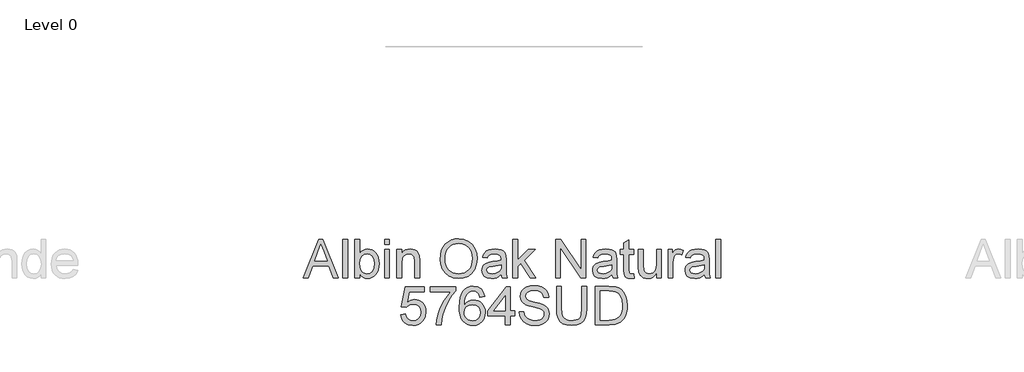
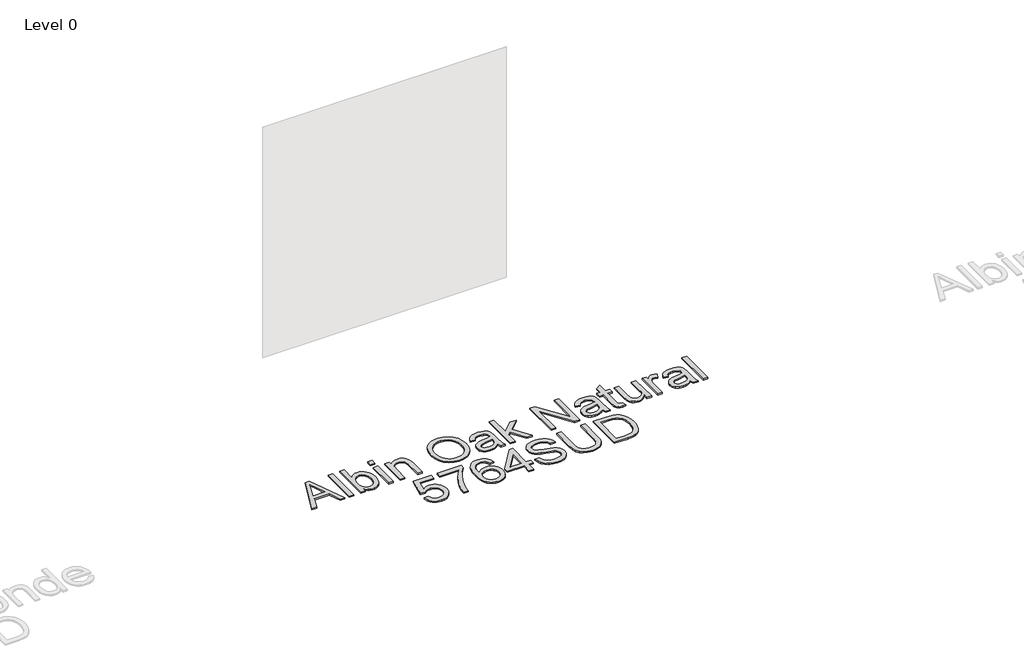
# One storey, part 31 of 43: 1 proxy.
"""IFC4 building model written with IfcOpenShell, lengths in millimetres."""

from ifc_helpers import new_model, si_unit, origin, origin_with_axes, place, context, project, spatial, polyline, outline, extrude, element, save

model = new_model("IFC4")

# Units and contexts
model_context = context("Model", 3, world=origin())
ifc_project = project(units=[si_unit("LENGTHUNIT", "METRE", prefix="MILLI")], contexts=[model_context])

# Site, building, storey
site = spatial("IfcSite", under=ifc_project)
building = spatial("IfcBuilding", under=site)
storey = spatial("IfcBuildingStorey", under=building, Name="Level 0", Elevation=0.0)

# Proxy
placement = place(None, origin())
element("IfcBuildingElementProxy", 1, Name="300mm Arial", ObjectType="300mm Arial", at=placement, inside=storey, context=model_context, shape_type="SweptSolid", body=[
    extrude(outline(polyline([(3908.5146688, -7002.860494), (4028.8120812, -6701.4915635), (4060.8913912, -6701.4915635), (4181.1888036, -7002.860494), (4141.3839718, -7002.860494), (4106.8766406, -6908.6827032), (3982.7532554, -6908.6827032), (3948.3195007, -7002.860494), (3908.5146688, -7002.860494)]), holes=[polyline([(3996.5856185, -6871.0115869), (4093.117854, -6871.0115869), (4065.9681627, -6796.9201531), (4044.8517362, -6739.1626798), (4026.0897545, -6790.44543), (3996.5856185, -6871.0115869)])]), origin_with_axes(), (0.0, 0.0, 1.0), 10.0),
    extrude(outline(polyline([(4216.7262044, -7002.860494), (4216.7262044, -6701.4915635), (4254.3973207, -6701.4915635), (4254.3973207, -7002.860494), (4216.7262044, -7002.860494)])), origin_with_axes(), (0.0, 0.0, 1.0), 10.0),
    extrude(outline(polyline([(4348.5751114, -7002.860494), (4310.9039951, -7002.860494), (4310.9039951, -6701.4915635), (4348.5751114, -6701.4915635), (4348.5751114, -6813.2541137), (4360.9635376, -6797.3202248), (4374.9522505, -6785.9388755), (4390.54125, -6779.110066), (4407.7305363, -6776.8337961), (4427.1363115, -6778.8847383), (4445.475229, -6785.0375646), (4461.698825, -6794.9059992), (4474.7586358, -6808.1037657), (4484.9949523, -6824.5021057), (4492.7480653, -6843.9722603), (4497.6316988, -6865.7048891), (4499.2595767, -6888.8906519), (4497.5742173, -6915.64487), (4492.5181391, -6939.1801206), (4484.0913421, -6959.4964038), (4472.2938264, -6976.5937195), (4458.1326689, -6990.1455725), (4442.6149465, -6999.8254675), (4425.7406592, -7005.6334045), (4407.5098071, -7007.5693835), (4389.7549023, -7005.0723845), (4374.0141514, -6997.5813874), (4360.2875545, -6985.0963921), (4348.5751114, -6967.6173988), (4348.5751114, -7002.860494)]), holes=[polyline([(4348.5751114, -6890.6564855), (4351.1502854, -6922.0736078), (4358.8758073, -6943.3371872), (4368.0038793, -6954.9576597), (4378.6126763, -6963.2579972), (4390.7021984, -6968.2381997), (4404.2724455, -6969.8982672), (4426.0142714, -6965.0054367), (4444.5923122, -6950.3269451), (4457.3394233, -6925.9547629), (4461.5884604, -6891.9808606), (4457.5141673, -6857.5103177), (4445.291288, -6833.414047), (4427.2926614, -6819.2321961), (4405.8911263, -6814.5049125), (4384.1493004, -6819.397743), (4365.5712596, -6834.0762346), (4352.8241485, -6858.0069584), (4348.5751114, -6890.6564855)])]), origin_with_axes(), (0.0, 0.0, 1.0), 10.0),
    extrude(outline(polyline([(4541.6395825, -6739.1626798), (4541.6395825, -6701.4915635), (4579.3106988, -6701.4915635), (4579.3106988, -6739.1626798), (4541.6395825, -6739.1626798)])), origin_with_axes(), (0.0, 0.0, 1.0), 10.0),
    extrude(outline(polyline([(4541.6395825, -7002.860494), (4541.6395825, -6781.5426857), (4579.3106988, -6781.5426857), (4579.3106988, -7002.860494), (4541.6395825, -7002.860494)])), origin_with_axes(), (0.0, 0.0, 1.0), 10.0),
    extrude(outline(polyline([(4635.8173733, -7002.860494), (4635.8173733, -6781.5426857), (4673.4884896, -6781.5426857), (4673.4884896, -6812.4447733), (4686.5758916, -6796.8649708), (4702.2936498, -6785.7365404), (4720.6417643, -6779.0594822), (4741.6202351, -6776.8337961), (4760.1890788, -6778.6272209), (4777.194424, -6784.0074951), (4791.3762749, -6792.303234), (4801.4746357, -6802.8430532), (4812.7686129, -6830.5445674), (4814.7551757, -6866.964885), (4814.7551757, -7002.860494), (4777.0840594, -7002.860494), (4777.0840594, -6872.0416565), (4772.7430519, -6838.7115477), (4766.7373783, -6828.7879309), (4757.4023727, -6821.0900002), (4745.4370108, -6816.1511844), (4731.5402684, -6814.5049125), (4709.4765458, -6818.2021265), (4690.6685788, -6829.2937687), (4683.1522897, -6838.3482643), (4677.7835119, -6850.7228949), (4673.4884896, -6885.4325611), (4673.4884896, -7002.860494), (4635.8173733, -7002.860494)])), origin_with_axes(), (0.0, 0.0, 1.0), 10.0),
    extrude(outline(polyline([(4974.85742, -6856.1491543), (4977.3682146, -6820.8002931), (4984.9005985, -6789.5073309), (4997.4545716, -6762.2702677), (5015.0301339, -6739.0891034), (5036.5742232, -6720.5800406), (5061.0337774, -6707.3592814), (5088.4087964, -6699.4268258), (5118.6992801, -6696.782674), (5158.2282005, -6701.7490809), (5193.6736308, -6716.6483017), (5223.1041904, -6740.4318727), (5244.5884989, -6772.0513302), (5257.7218861, -6809.9799639), (5262.0996819, -6852.6910636), (5257.4919599, -6895.9723803), (5243.6687939, -6934.4344429), (5221.3935391, -6966.1090827), (5191.4295506, -6989.028131), (5156.287623, -7002.9340704), (5118.4785509, -7007.5693835), (5078.3426253, -7002.4466267), (5042.6948599, -6987.0783564), (5013.3378767, -6962.853327), (4992.0742974, -6931.1602931), (4979.1616394, -6894.6939903), (4974.85742, -6856.1491543)]), holes=[polyline([(5012.5285363, -6856.5170363), (5014.4116323, -6881.4916252), (5020.0609202, -6903.661114), (5029.4764, -6923.0255025), (5042.6580717, -6939.5847908), (5058.6816319, -6952.8469367), (5076.6227769, -6962.3198981), (5096.4815069, -6968.0036749), (5118.2578217, -6969.8982672), (5140.4066171, -6967.9852808), (5160.4998718, -6962.2463217), (5178.5375859, -6952.6813898), (5194.5197593, -6939.2904852), (5207.6048621, -6922.381709), (5216.951364, -6902.2631624), (5222.5592652, -6878.9348454), (5224.4285656, -6852.396758), (5221.2279922, -6819.0482551), (5211.6262721, -6790.2247008), (5195.8717257, -6766.6526619), (5174.2126732, -6749.0587055), (5148.0838545, -6738.1050191), (5118.9200093, -6734.4537903), (5097.9001518, -6736.2127261), (5078.3978076, -6741.4895335), (5060.4129765, -6750.2842124), (5043.9456587, -6762.5967629), (5030.2006677, -6779.0203948), (5020.3828169, -6800.1483176), (5014.4921065, -6825.9805314), (5012.5285363, -6856.5170363)])]), origin_with_axes(), (0.0, 0.0, 1.0), 10.0),
    extrude(outline(polyline([(5450.4552634, -6974.6071568), (5432.4566368, -6990.0398064), (5413.9245813, -7000.1381672), (5394.4360326, -7005.7115794), (5373.5679264, -7007.5693835), (5342.0864247, -7003.0996173), (5318.8638737, -6989.6903186), (5304.5440671, -6969.3280501), (5299.7707982, -6943.9993748), (5301.5734199, -6928.3827841), (5306.9812853, -6914.2009331), (5315.3230095, -6902.0608273), (5325.927208, -6892.5694718), (5352.3043471, -6880.2086368), (5384.8986918, -6874.5432541), (5423.4159367, -6868.5835657), (5450.2345342, -6861.5938078), (5450.4552634, -6853.2060983), (5447.8616953, -6836.3938912), (5440.0809911, -6825.3942195), (5422.6801728, -6817.2272392), (5398.4367493, -6814.5049125), (5375.9959476, -6816.3167313), (5360.3241746, -6821.7521878), (5349.6372026, -6831.8045633), (5342.150804, -6847.4671392), (5304.4796877, -6842.7582497), (5311.0187902, -6822.156858), (5320.7768601, -6805.9700502), (5334.6644054, -6793.590821), (5353.5919341, -6784.4121652), (5376.7409086, -6778.7283884), (5403.2927916, -6776.8337961), (5428.7594227, -6778.5076592), (5448.9469472, -6783.5292485), (5464.1680648, -6791.0800264), (5474.7354751, -6800.3414556), (5481.7436271, -6811.7917827), (5486.2869697, -6825.9092543), (5488.1263797, -6858.8714811), (5488.1263797, -6905.7396473), (5490.0393661, -6971.1858542), (5497.5441588, -7002.860494), (5459.8730425, -7002.860494), (5450.4552634, -6974.6071568)]), holes=[polyline([(5450.4552634, -6899.2649241), (5389.6811578, -6910.8164188), (5357.270754, -6916.9232599), (5342.5922624, -6926.8560738), (5337.4419145, -6941.3506244), (5340.2470147, -6952.5526311), (5348.6623153, -6961.7312869), (5362.5038754, -6967.8565221), (5381.5877539, -6969.8982672), (5401.8212636, -6967.64499), (5419.7003286, -6960.8851583), (5434.1948792, -6950.9247533), (5444.2748459, -6939.069756), (5448.7446121, -6926.8560738), (5450.2345342, -6909.933502), (5450.4552634, -6899.2649241)])]), origin_with_axes(), (0.0, 0.0, 1.0), 10.0),
    extrude(outline(polyline([(5539.9241646, -7002.860494), (5539.9241646, -6701.4915635), (5577.5952809, -6701.4915635), (5577.5952809, -6863.4332178), (5662.060987, -6781.5426857), (5714.1530775, -6781.5426857), (5628.6573019, -6864.4632874), (5718.8619671, -7002.860494), (5674.8632804, -7002.860494), (5601.6547634, -6890.6564855), (5577.5952809, -6913.9802039), (5577.5952809, -7002.860494), (5539.9241646, -7002.860494)])), origin_with_axes(), (0.0, 0.0, 1.0), 10.0),
    extrude(outline(polyline([(5874.2553218, -7002.860494), (5874.2553218, -6701.4915635), (5914.5751885, -6701.4915635), (6072.0286824, -6940.2469784), (6072.0286824, -6701.4915635), (6109.6997987, -6701.4915635), (6109.6997987, -7002.860494), (6069.3799321, -7002.860494), (5911.9264381, -6764.0315027), (5911.9264381, -7002.860494), (5874.2553218, -7002.860494)])), origin_with_axes(), (0.0, 0.0, 1.0), 10.0),
    extrude(outline(polyline([(6312.1820489, -6974.6071568), (6294.1834223, -6990.0398064), (6275.6513668, -7000.1381672), (6256.1628181, -7005.7115794), (6235.2947119, -7007.5693835), (6203.8132102, -7003.0996173), (6180.5906592, -6989.6903186), (6166.2708526, -6969.3280501), (6161.4975837, -6943.9993748), (6163.3002054, -6928.3827841), (6168.7080708, -6914.2009331), (6177.049795, -6902.0608273), (6187.6539935, -6892.5694718), (6214.0311326, -6880.2086368), (6246.6254774, -6874.5432541), (6285.1427222, -6868.5835657), (6311.9613197, -6861.5938078), (6312.1820489, -6853.2060983), (6309.5884808, -6836.3938912), (6301.8077766, -6825.3942195), (6284.4069583, -6817.2272392), (6260.1635348, -6814.5049125), (6237.7227331, -6816.3167313), (6222.0509601, -6821.7521878), (6211.3639881, -6831.8045633), (6203.8775895, -6847.4671392), (6166.2064732, -6842.7582497), (6172.7455757, -6822.156858), (6182.5036456, -6805.9700502), (6196.3911909, -6793.590821), (6215.3187196, -6784.4121652), (6238.4676941, -6778.7283884), (6265.0195771, -6776.8337961), (6290.4862082, -6778.5076592), (6310.6737327, -6783.5292485), (6325.8948503, -6791.0800264), (6336.4622606, -6800.3414556), (6343.4704126, -6811.7917827), (6348.0137552, -6825.9092543), (6349.8531652, -6858.8714811), (6349.8531652, -6905.7396473), (6351.7661516, -6971.1858542), (6359.2709443, -7002.860494), (6321.599828, -7002.860494), (6312.1820489, -6974.6071568)]), holes=[polyline([(6312.1820489, -6899.2649241), (6251.4079433, -6910.8164188), (6218.9975395, -6916.9232599), (6204.3190479, -6926.8560738), (6199.1687, -6941.3506244), (6201.9738002, -6952.5526311), (6210.3891008, -6961.7312869), (6224.2306609, -6967.8565221), (6243.3145394, -6969.8982672), (6263.5480491, -6967.64499), (6281.4271141, -6960.8851583), (6295.9216647, -6950.9247533), (6306.0016314, -6939.069756), (6310.4713976, -6926.8560738), (6311.9613197, -6909.933502), (6312.1820489, -6899.2649241)])]), origin_with_axes(), (0.0, 0.0, 1.0), 10.0),
    extrude(outline(polyline([(6481.7020723, -6971.4433716), (6486.4109618, -7003.96414), (6458.231201, -7007.5693835), (6440.1498009, -7006.005885), (6426.6669258, -7001.3153896), (6417.1387821, -6994.0865084), (6410.9215764, -6984.9078526), (6407.5002738, -6969.1441091), (6406.3598397, -6942.1599648), (6406.3598397, -6819.213802), (6378.1065024, -6819.213802), (6378.1065024, -6781.5426857), (6406.3598397, -6781.5426857), (6406.3598397, -6727.758338), (6444.030956, -6705.6118419), (6444.030956, -6781.5426857), (6481.7020723, -6781.5426857), (6481.7020723, -6819.213802), (6444.030956, -6819.213802), (6444.030956, -6941.0563188), (6446.0175187, -6960.4804881), (6452.4554537, -6967.3598814), (6465.2945353, -6969.8982672), (6481.7020723, -6971.4433716)])), origin_with_axes(), (0.0, 0.0, 1.0), 10.0),
    extrude(outline(polyline([(6660.6398747, -7002.860494), (6660.6398747, -6964.8214957), (6647.0098468, -6983.5236966), (6631.1357387, -6996.8824116), (6613.0175504, -7004.8976405), (6592.655282, -7007.5693835), (6574.3071675, -7005.6931853), (6557.2282459, -7000.0645908), (6542.8992422, -6991.6033049), (6532.8008814, -6981.2290327), (6521.5804805, -6953.4907302), (6519.3731886, -6918.4683643), (6519.3731886, -6781.5426857), (6557.0443049, -6781.5426857), (6557.0443049, -6900.7364521), (6559.3251733, -6939.1433324), (6564.815812, -6951.9548229), (6574.2243941, -6961.6944987), (6586.9255199, -6967.8473251), (6602.2937903, -6969.8982672), (6618.5449774, -6967.8013398), (6633.7477009, -6961.5105577), (6646.2832799, -6951.605335), (6654.5330336, -6938.6650858), (6659.1131644, -6920.9423707), (6660.6398747, -6896.6897502), (6660.6398747, -6781.5426857), (6698.310991, -6781.5426857), (6698.310991, -7002.860494), (6660.6398747, -7002.860494)])), origin_with_axes(), (0.0, 0.0, 1.0), 10.0),
    extrude(outline(polyline([(6750.1087759, -7002.860494), (6750.1087759, -6781.5426857), (6783.0710027, -6781.5426857), (6783.0710027, -6814.2841833), (6795.2478968, -6795.3014723), (6806.4682976, -6784.1178596), (6817.7254867, -6778.654812), (6830.0127453, -6776.8337961), (6848.7747271, -6779.7400639), (6867.8310144, -6788.4588672), (6855.2494502, -6822.2304343), (6842.0056983, -6816.4362929), (6828.7619465, -6814.5049125), (6817.5139545, -6816.3627165), (6807.461579, -6821.9361288), (6799.340584, -6830.8020848), (6793.8867334, -6842.5375205), (6789.3066025, -6863.5803706), (6787.7798923, -6886.5362071), (6787.7798923, -7002.860494), (6750.1087759, -7002.860494)])), origin_with_axes(), (0.0, 0.0, 1.0), 10.0),
    extrude(outline(polyline([(7032.6421482, -6974.6071568), (7014.6435216, -6990.0398064), (6996.1114661, -7000.1381672), (6976.6229174, -7005.7115794), (6955.7548113, -7007.5693835), (6924.2733095, -7003.0996173), (6901.0507586, -6989.6903186), (6886.7309519, -6969.3280501), (6881.957683, -6943.9993748), (6883.7603048, -6928.3827841), (6889.1681701, -6914.2009331), (6897.5098944, -6902.0608273), (6908.1140929, -6892.5694718), (6934.4912319, -6880.2086368), (6967.0855767, -6874.5432541), (7005.6028216, -6868.5835657), (7032.421419, -6861.5938078), (7032.6421482, -6853.2060983), (7030.0485802, -6836.3938912), (7022.267876, -6825.3942195), (7004.8670576, -6817.2272392), (6980.6236341, -6814.5049125), (6958.1828324, -6816.3167313), (6942.5110594, -6821.7521878), (6931.8240875, -6831.8045633), (6924.3376889, -6847.4671392), (6886.6665726, -6842.7582497), (6893.205675, -6822.156858), (6902.9637449, -6805.9700502), (6916.8512903, -6793.590821), (6935.7788189, -6784.4121652), (6958.9277935, -6778.7283884), (6985.4796765, -6776.8337961), (7010.9463076, -6778.5076592), (7031.1338321, -6783.5292485), (7046.3549496, -6791.0800264), (7056.9223599, -6800.3414556), (7063.9305119, -6811.7917827), (7068.4738546, -6825.9092543), (7070.3132646, -6858.8714811), (7070.3132646, -6905.7396473), (7072.2262509, -6971.1858542), (7079.7310436, -7002.860494), (7042.0599273, -7002.860494), (7032.6421482, -6974.6071568)]), holes=[polyline([(7032.6421482, -6899.2649241), (6971.8680426, -6910.8164188), (6939.4576389, -6916.9232599), (6924.7791473, -6926.8560738), (6919.6287993, -6941.3506244), (6922.4338995, -6952.5526311), (6930.8492002, -6961.7312869), (6944.6907602, -6967.8565221), (6963.7746387, -6969.8982672), (6984.0081485, -6967.64499), (7001.8872134, -6960.8851583), (7016.3817641, -6950.9247533), (7026.4617307, -6939.069756), (7030.931497, -6926.8560738), (7032.421419, -6909.933502), (7032.6421482, -6899.2649241)])]), origin_with_axes(), (0.0, 0.0, 1.0), 10.0),
    extrude(outline(polyline([(7122.1110495, -7002.860494), (7122.1110495, -6701.4915635), (7159.7821658, -6701.4915635), (7159.7821658, -7002.860494), (7122.1110495, -7002.860494)])), origin_with_axes(), (0.0, 0.0, 1.0), 10.0),
    extrude(outline(polyline([(4666.4251553, -7288.7338254), (4704.0962716, -7284.0249358), (4711.0124531, -7306.6404815), (4723.0789825, -7322.8364863), (4740.2406776, -7332.5761621), (4762.442356, -7335.8227207), (4789.4448945, -7331.3069693), (4809.6784042, -7317.7597148), (4822.3151507, -7296.7444558), (4826.5273996, -7269.8246908), (4822.5818652, -7244.4776213), (4810.745262, -7225.0902402), (4790.9256195, -7212.7845875), (4763.0309672, -7208.6827032), (4744.7564291, -7210.3197781), (4729.9583758, -7215.2310027), (4708.8051611, -7232.2271509), (4671.1340448, -7227.5182614), (4704.0962716, -7072.1249066), (4850.0718473, -7072.1249066), (4850.0718473, -7109.7960229), (4734.5569008, -7109.7960229), (4718.4436694, -7192.790201), (4745.3542373, -7176.4562404), (4773.5523923, -7171.0115869), (4791.8982075, -7172.6992456), (4808.7495022, -7177.7622215), (4824.1062762, -7186.2005148), (4837.9685296, -7198.0141254), (4849.4441486, -7212.4810848), (4857.6410193, -7228.8794248), (4862.5591417, -7247.2091452), (4864.1985159, -7267.470246), (4858.2940099, -7305.1413624), (4850.9133773, -7321.9351754), (4840.5804918, -7337.3678251), (4824.9271129, -7353.1729553), (4806.6617718, -7364.4623341), (4785.7844686, -7371.2359613), (4762.2952032, -7373.4938371), (4725.2954715, -7367.6904986), (4709.6168008, -7360.4363255), (4695.8189267, -7350.2804832), (4684.3387092, -7337.7288093), (4675.6130081, -7323.2871418), (4666.4251553, -7288.7338254)])), origin_with_axes(), (0.0, 0.0, 1.0), 10.0),
    extrude(outline(polyline([(4897.1607426, -7109.7960229), (4897.1607426, -7072.1249066), (5094.9341033, -7072.1249066), (5094.9341033, -7102.5855358), (5066.7451454, -7138.2608923), (5038.832099, -7183.6299393), (5014.2115965, -7234.5540045), (4995.9002701, -7286.8944154), (4986.9239495, -7326.0554538), (4981.9207543, -7368.7849475), (4944.249638, -7368.7849475), (4948.3239311, -7329.9550029), (4959.2224352, -7283.8042066), (4976.6508448, -7234.8850983), (5000.3148541, -7187.7502177), (5027.9427919, -7145.1402856), (5057.2629869, -7109.7960229), (4897.1607426, -7109.7960229)])), origin_with_axes(), (0.0, 0.0, 1.0), 10.0),
    extrude(outline(polyline([(5320.9608011, -7147.4671392), (5283.2896848, -7152.1760288), (5277.2196319, -7133.5060175), (5269.0158634, -7120.7589064), (5251.9277447, -7109.0050766), (5231.2711707, -7105.0871334), (5213.7599877, -7107.3680017), (5197.2788743, -7114.2106069), (5183.1246145, -7128.622384), (5171.5639228, -7148.4604206), (5163.7556275, -7176.5206198), (5160.8585568, -7215.5988847), (5175.9693097, -7197.9681401), (5194.078301, -7185.5429257), (5214.1738549, -7178.1760888), (5235.2442962, -7175.7204764), (5253.3440904, -7177.3989381), (5270.045933, -7182.4343229), (5285.349824, -7190.8266309), (5299.2557634, -7202.5758621), (5310.8118565, -7216.9830407), (5319.0662088, -7233.349191), (5324.0188202, -7251.6743129), (5325.6696906, -7271.9584064), (5322.5610878, -7298.9333537), (5313.2352792, -7323.9401323), (5298.4648171, -7345.1485293), (5279.0222536, -7360.7283318), (5255.7905056, -7370.3024607), (5229.6524899, -7373.4938371), (5207.1955933, -7371.3785156), (5186.9137991, -7365.0325512), (5168.8071071, -7354.4559438), (5152.8755175, -7339.6486935), (5139.8869838, -7319.9854009), (5130.6094597, -7294.8406665), (5125.0429453, -7264.2144904), (5123.1874405, -7228.1068726), (5125.2475797, -7187.6260575), (5131.4279972, -7153.0773396), (5141.728693, -7124.4607189), (5156.1496672, -7101.7761954), (5171.7800535, -7086.7436174), (5189.9028403, -7076.0060617), (5210.5180276, -7069.5635282), (5233.6256154, -7067.4160171), (5266.6798127, -7072.7319119), (5293.1489223, -7088.6795964), (5311.6901748, -7114.0082718), (5320.9608011, -7147.4671392)]), holes=[polyline([(5160.8585568, -7271.3697952), (5163.0382576, -7288.0624407), (5169.5773601, -7304.0009282), (5179.7309031, -7317.7045325), (5192.7539258, -7327.6925287), (5208.471684, -7333.7901727), (5226.7094339, -7335.8227207), (5251.5690597, -7331.6104719), (5271.1127907, -7318.9737254), (5283.7771284, -7299.1080976), (5287.9985743, -7273.2092052), (5283.8323107, -7248.3495793), (5271.3335199, -7229.3944595), (5251.4586951, -7217.3923095), (5225.1643295, -7213.3915928), (5200.3414919, -7217.3923095), (5179.5837503, -7229.3944595), (5165.5398552, -7247.8897269), (5160.8585568, -7271.3697952)])]), origin_with_axes(), (0.0, 0.0, 1.0), 10.0),
    extrude(outline(polyline([(5481.0630454, -7368.7849475), (5481.0630454, -7298.1516044), (5344.5052488, -7298.1516044), (5344.5052488, -7260.4804881), (5490.4808245, -7072.1249066), (5518.7341617, -7072.1249066), (5518.7341617, -7260.4804881), (5556.405278, -7260.4804881), (5556.405278, -7298.1516044), (5518.7341617, -7298.1516044), (5518.7341617, -7368.7849475), (5481.0630454, -7368.7849475)]), holes=[polyline([(5481.0630454, -7260.4804881), (5481.0630454, -7144.0826249), (5390.8583802, -7260.4804881), (5481.0630454, -7260.4804881)])]), origin_with_axes(), (0.0, 0.0, 1.0), 10.0),
    extrude(outline(polyline([(5589.3675048, -7265.1893777), (5627.0386211, -7265.1893777), (5631.3612345, -7286.0942721), (5639.1787269, -7302.8972822), (5651.3740151, -7316.2330045), (5668.8300157, -7326.7360355), (5690.1671714, -7333.5510494), (5714.0059247, -7335.8227207), (5734.9935926, -7334.1028724), (5753.3692982, -7328.9433274), (5768.259322, -7320.7763471), (5778.7899441, -7310.0341929), (5785.0531351, -7297.700949), (5787.1408654, -7284.7606998), (5785.5773669, -7272.1515444), (5780.8868715, -7261.2530403), (5771.3587278, -7251.9548229), (5755.2822846, -7244.1465276), (5700.4310791, -7229.7623415), (5664.4246288, -7220.2433949), (5641.3860189, -7211.1843008), (5622.6332342, -7198.510766), (5609.3434971, -7183.1516928), (5601.4248372, -7165.4381747), (5598.7852838, -7145.7013056), (5602.0502366, -7123.637583), (5611.8450947, -7103.0637824), (5627.9123408, -7085.6261758), (5649.9944576, -7072.9710352), (5676.5003553, -7065.2731044), (5705.8389444, -7062.7071275), (5737.6239488, -7065.3926661), (5765.4358277, -7073.4492818), (5788.2812996, -7086.7114277), (5805.1670831, -7105.013557), (5815.8540551, -7127.2152354), (5820.1030921, -7152.1760288), (5782.4319758, -7152.1760288), (5775.5157943, -7129.6984389), (5761.0948201, -7113.4748429), (5738.5620479, -7103.6523936), (5707.3104724, -7100.3782438), (5675.3231329, -7103.6156054), (5653.3789719, -7113.3276901), (5640.6870431, -7127.6199056), (5636.4564002, -7144.5976597), (5639.4546384, -7159.0738162), (5648.4493532, -7170.7172813), (5669.7129325, -7181.1283418), (5709.9592228, -7191.7601314), (5751.4931, -7201.8584922), (5776.6194403, -7210.669266), (5798.0945518, -7224.3360821), (5813.076546, -7241.2034716), (5821.8781228, -7261.0874934), (5824.8119817, -7283.8042066), (5821.4366644, -7307.0267576), (5811.3107125, -7328.869751), (5794.8479932, -7347.668521), (5772.4623738, -7361.7584014), (5745.5426088, -7370.5599781), (5715.4774527, -7373.4938371), (5678.5696915, -7370.3300519), (5648.1918358, -7360.8386964), (5623.9943976, -7344.9829824), (5605.627889, -7322.7261217), (5593.837271, -7295.6132187), (5589.3675048, -7265.1893777)])), origin_with_axes(), (0.0, 0.0, 1.0), 10.0),
    extrude(outline(polyline([(6079.0920167, -7067.4160171), (6116.7631331, -7067.4160171), (6116.7631331, -7241.277048), (6114.2063532, -7281.9923878), (6106.5360136, -7313.3451308), (6092.2070099, -7337.533372), (6069.6742377, -7356.7552063), (6038.8825147, -7369.3091794), (5999.7766586, -7373.4938371), (5961.5261281, -7369.8518053), (5930.9459373, -7358.92571), (5908.026889, -7341.0926303), (5892.7597862, -7316.7296452), (5884.1789387, -7284.052527), (5881.3186561, -7241.277048), (5881.3186561, -7067.4160171), (5918.9897724, -7067.4160171), (5918.9897724, -7239.9526728), (5920.8475765, -7273.8070134), (5926.4209887, -7297.3790523), (5936.5193495, -7313.7038158), (5951.9519992, -7325.8163305), (5972.0751444, -7333.3211232), (5996.2449914, -7335.8227207), (6034.5599012, -7330.8747079), (6048.9027005, -7324.6896919), (6060.0357294, -7316.0306694), (6068.3728551, -7303.8537754), (6074.3279449, -7287.1151446), (6079.0920167, -7239.9526728), (6079.0920167, -7067.4160171)])), origin_with_axes(), (0.0, 0.0, 1.0), 10.0),
    extrude(outline(polyline([(6182.6875866, -7368.7849475), (6182.6875866, -7067.4160171), (6286.6510384, -7067.4160171), (6340.4353861, -7071.7570246), (6364.4580804, -7080.12634), (6384.7283783, -7093.3149095), (6405.5688934, -7116.270746), (6420.4129319, -7144.8183889), (6429.2972821, -7178.406015), (6432.2587321, -7216.4818015), (6430.2537752, -7248.8278259), (6424.2389046, -7277.2926953), (6415.0786429, -7301.5269217), (6403.6375129, -7321.1810173), (6390.4673375, -7336.6964405), (6376.1199397, -7348.5146496), (6359.6480233, -7357.2794381), (6340.1042923, -7363.6345996), (6291.6542336, -7368.7849475), (6182.6875866, -7368.7849475)]), holes=[polyline([(6220.3587029, -7331.1138312), (6287.0189204, -7331.1138312), (6314.591676, -7329.7526678), (6335.5057674, -7325.6691777), (6351.287905, -7319.1024841), (6363.464799, -7310.2917103), (6376.552201, -7293.9853408), (6386.3838473, -7272.8781114), (6392.5366737, -7246.8780514), (6394.5876158, -7215.8931903), (6390.568505, -7174.8375597), (6378.5111726, -7144.5240833), (6360.696487, -7123.7019623), (6339.4053165, -7111.1203981), (6317.737067, -7106.5954496), (6285.9888508, -7105.0871334), (6220.3587029, -7105.0871334), (6220.3587029, -7331.1138312)])]), origin_with_axes(), (0.0, 0.0, 1.0), 10.0),
])

save(model, "model.ifc")
